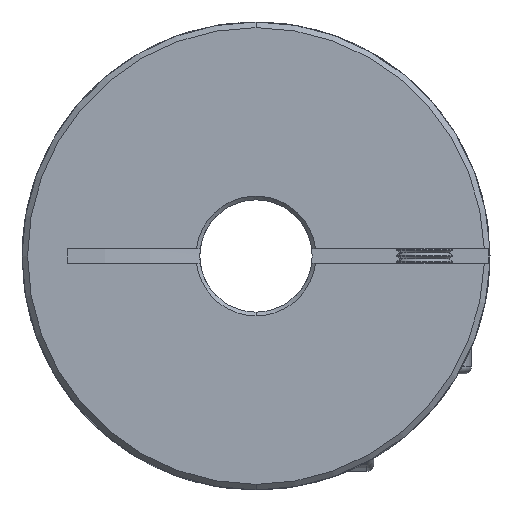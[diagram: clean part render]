
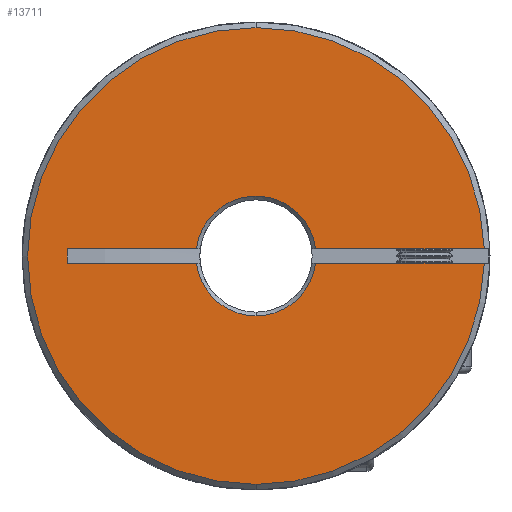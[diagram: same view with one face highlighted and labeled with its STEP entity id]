
A CAD part, front view. The second image highlights one B-rep face of the part: STEP entity #13711.
In plain terms, the highlighted planar face has unit normal (0, -1, 0).
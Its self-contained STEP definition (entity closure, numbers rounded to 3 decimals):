
#50 = AXIS2_PLACEMENT_3D ( 'NONE', #13455, #5362, #3875 ) ;
#349 = DIRECTION ( 'NONE',  ( 0., 1., 0. ) ) ;
#609 = VERTEX_POINT ( 'NONE', #6354 ) ;
#644 = ORIENTED_EDGE ( 'NONE', *, *, #12317, .T. ) ;
#764 = EDGE_CURVE ( 'NONE', #4534, #11601, #3059, .T. ) ;
#1365 = VERTEX_POINT ( 'NONE', #14460 ) ;
#1517 = ORIENTED_EDGE ( 'NONE', *, *, #7416, .T. ) ;
#1818 = CARTESIAN_POINT ( 'NONE',  ( 0., 0., 0. ) ) ;
#2095 = DIRECTION ( 'NONE',  ( 0., 0., 1. ) ) ;
#2164 = PLANE ( 'NONE',  #6053 ) ;
#2335 = CIRCLE ( 'NONE', #7374, 6.4 ) ;
#2420 = CARTESIAN_POINT ( 'NONE',  ( -50., 0., -0.75 ) ) ;
#2680 = EDGE_CURVE ( 'NONE', #11601, #16011, #2335, .T. ) ;
#2886 = CIRCLE ( 'NONE', #7351, 24.4 ) ;
#3059 = CIRCLE ( 'NONE', #6336, 6.4 ) ;
#3118 = CARTESIAN_POINT ( 'NONE',  ( 0., 0., 0. ) ) ;
#3157 = DIRECTION ( 'NONE',  ( 0., 0., 1. ) ) ;
#3165 = VERTEX_POINT ( 'NONE', #14775 ) ;
#3290 = LINE ( 'NONE', #14691, #15090 ) ;
#3311 = ORIENTED_EDGE ( 'NONE', *, *, #4063, .F. ) ;
#3379 = CARTESIAN_POINT ( 'NONE',  ( 0., 0., 0. ) ) ;
#3380 = CARTESIAN_POINT ( 'NONE',  ( 24.388, 0., 0.75 ) ) ;
#3559 = CARTESIAN_POINT ( 'NONE',  ( -20.149, 0., -0.75 ) ) ;
#3692 = VERTEX_POINT ( 'NONE', #3380 ) ;
#3779 = ORIENTED_EDGE ( 'NONE', *, *, #9239, .F. ) ;
#3838 = VERTEX_POINT ( 'NONE', #16895 ) ;
#3875 = DIRECTION ( 'NONE',  ( 0., 0., 1. ) ) ;
#4038 = VERTEX_POINT ( 'NONE', #11634 ) ;
#4063 = EDGE_CURVE ( 'NONE', #4534, #3165, #10887, .T. ) ;
#4534 = VERTEX_POINT ( 'NONE', #5693 ) ;
#4538 = EDGE_CURVE ( 'NONE', #1365, #3165, #6232, .T. ) ;
#4627 = DIRECTION ( 'NONE',  ( 0., 1., 0. ) ) ;
#4833 = DIRECTION ( 'NONE',  ( 0., 0., 1. ) ) ;
#4881 = DIRECTION ( 'NONE',  ( 0., 0., 1. ) ) ;
#4970 = EDGE_LOOP ( 'NONE', ( #3311, #15564, #9303, #3779, #14267, #11872, #644, #1517, #5222, #7690, #12495 ) ) ;
#5035 = FACE_OUTER_BOUND ( 'NONE', #4970, .T. ) ;
#5038 = DIRECTION ( 'NONE',  ( 1., 0., 0. ) ) ;
#5222 = ORIENTED_EDGE ( 'NONE', *, *, #7332, .T. ) ;
#5301 = CIRCLE ( 'NONE', #50, 24.4 ) ;
#5362 = DIRECTION ( 'NONE',  ( 0., -1., 0. ) ) ;
#5460 = CARTESIAN_POINT ( 'NONE',  ( -6.356, 0., 0.75 ) ) ;
#5693 = CARTESIAN_POINT ( 'NONE',  ( 6.356, 0., -0.75 ) ) ;
#5836 = CARTESIAN_POINT ( 'NONE',  ( -6.356, 0., -0.75 ) ) ;
#6053 = AXIS2_PLACEMENT_3D ( 'NONE', #12795, #11654, #4833 ) ;
#6232 = CIRCLE ( 'NONE', #14676, 24.4 ) ;
#6336 = AXIS2_PLACEMENT_3D ( 'NONE', #1818, #12509, #3157 ) ;
#6354 = CARTESIAN_POINT ( 'NONE',  ( -20.149, 0., 0.75 ) ) ;
#7298 = VECTOR ( 'NONE', #5038, 1000. ) ;
#7332 = EDGE_CURVE ( 'NONE', #3692, #3838, #5301, .T. ) ;
#7351 = AXIS2_PLACEMENT_3D ( 'NONE', #10083, #14196, #12754 ) ;
#7374 = AXIS2_PLACEMENT_3D ( 'NONE', #3118, #349, #13719 ) ;
#7416 = EDGE_CURVE ( 'NONE', #11923, #3692, #14630, .T. ) ;
#7690 = ORIENTED_EDGE ( 'NONE', *, *, #16027, .T. ) ;
#7701 = EDGE_CURVE ( 'NONE', #4038, #609, #12472, .T. ) ;
#8479 = CARTESIAN_POINT ( 'NONE',  ( 0., 0., 0. ) ) ;
#8689 = VECTOR ( 'NONE', #15046, 1000. ) ;
#8960 = AXIS2_PLACEMENT_3D ( 'NONE', #8479, #4627, #16588 ) ;
#9215 = DIRECTION ( 'NONE',  ( 1., 0., 0. ) ) ;
#9239 = EDGE_CURVE ( 'NONE', #4038, #16011, #3290, .T. ) ;
#9303 = ORIENTED_EDGE ( 'NONE', *, *, #2680, .T. ) ;
#10083 = CARTESIAN_POINT ( 'NONE',  ( 0., 0., 0. ) ) ;
#10212 = EDGE_CURVE ( 'NONE', #609, #11669, #10582, .T. ) ;
#10582 = LINE ( 'NONE', #12250, #8689 ) ;
#10887 = LINE ( 'NONE', #2420, #7298 ) ;
#11601 = VERTEX_POINT ( 'NONE', #13429 ) ;
#11634 = CARTESIAN_POINT ( 'NONE',  ( -20.149, 0., -0.75 ) ) ;
#11654 = DIRECTION ( 'NONE',  ( 0., 1., 0. ) ) ;
#11669 = VERTEX_POINT ( 'NONE', #5460 ) ;
#11872 = ORIENTED_EDGE ( 'NONE', *, *, #10212, .T. ) ;
#11923 = VERTEX_POINT ( 'NONE', #12950 ) ;
#12250 = CARTESIAN_POINT ( 'NONE',  ( -50., 0., 0.75 ) ) ;
#12317 = EDGE_CURVE ( 'NONE', #11669, #11923, #12673, .T. ) ;
#12391 = CARTESIAN_POINT ( 'NONE',  ( -50., 0., 0.75 ) ) ;
#12472 = LINE ( 'NONE', #3559, #15448 ) ;
#12495 = ORIENTED_EDGE ( 'NONE', *, *, #4538, .T. ) ;
#12509 = DIRECTION ( 'NONE',  ( 0., 1., 0. ) ) ;
#12673 = CIRCLE ( 'NONE', #8960, 6.4 ) ;
#12754 = DIRECTION ( 'NONE',  ( 0., 0., 1. ) ) ;
#12795 = CARTESIAN_POINT ( 'NONE',  ( -50., 0., 32.858 ) ) ;
#12950 = CARTESIAN_POINT ( 'NONE',  ( 6.356, 0., 0.75 ) ) ;
#13429 = CARTESIAN_POINT ( 'NONE',  ( 0., 0., -6.4 ) ) ;
#13455 = CARTESIAN_POINT ( 'NONE',  ( 0., 0., 0. ) ) ;
#13711 = ADVANCED_FACE ( 'NONE', ( #5035 ), #2164, .F. ) ;
#13719 = DIRECTION ( 'NONE',  ( 0., 0., 1. ) ) ;
#13759 = DIRECTION ( 'NONE',  ( 1., 0., 0. ) ) ;
#14196 = DIRECTION ( 'NONE',  ( 0., -1., 0. ) ) ;
#14267 = ORIENTED_EDGE ( 'NONE', *, *, #7701, .T. ) ;
#14460 = CARTESIAN_POINT ( 'NONE',  ( 0., 0., -24.4 ) ) ;
#14630 = LINE ( 'NONE', #12391, #17357 ) ;
#14676 = AXIS2_PLACEMENT_3D ( 'NONE', #3379, #16674, #2095 ) ;
#14691 = CARTESIAN_POINT ( 'NONE',  ( -50., 0., -0.75 ) ) ;
#14775 = CARTESIAN_POINT ( 'NONE',  ( 24.388, 0., -0.75 ) ) ;
#15046 = DIRECTION ( 'NONE',  ( 1., 0., 0. ) ) ;
#15090 = VECTOR ( 'NONE', #9215, 1000. ) ;
#15448 = VECTOR ( 'NONE', #4881, 1000. ) ;
#15564 = ORIENTED_EDGE ( 'NONE', *, *, #764, .T. ) ;
#16011 = VERTEX_POINT ( 'NONE', #5836 ) ;
#16027 = EDGE_CURVE ( 'NONE', #3838, #1365, #2886, .T. ) ;
#16588 = DIRECTION ( 'NONE',  ( 0., 0., 1. ) ) ;
#16674 = DIRECTION ( 'NONE',  ( 0., -1., 0. ) ) ;
#16895 = CARTESIAN_POINT ( 'NONE',  ( 0., 0., 24.4 ) ) ;
#17357 = VECTOR ( 'NONE', #13759, 1000. ) ;
